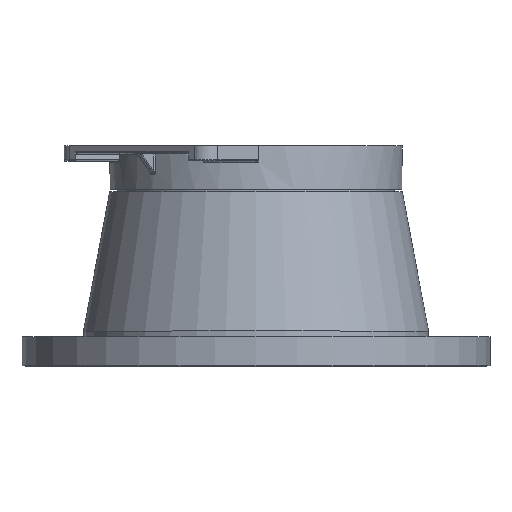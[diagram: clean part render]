
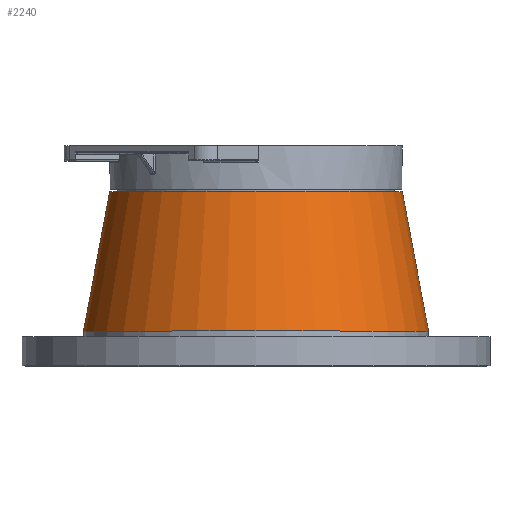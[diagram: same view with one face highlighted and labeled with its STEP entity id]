
A CAD part, top view. The second image highlights one B-rep face of the part: STEP entity #2240.
In plain terms, the highlighted free-form (B-spline) face has degree [2, 1] with [9, 2] control points.
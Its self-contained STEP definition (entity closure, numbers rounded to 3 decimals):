
#2155=CARTESIAN_POINT('',(285.087,17.707,0.0));
#2156=VERTEX_POINT('',#2155);
#2163=CARTESIAN_POINT('',(-9.913,17.707,0.0));
#2164=VERTEX_POINT('',#2163);
#2165=CARTESIAN_POINT('',(137.587,17.707,0.0));
#2166=DIRECTION('',(0.0,-1.0,0.0));
#2167=DIRECTION('',(1.0,0.0,0.0));
#2168=AXIS2_PLACEMENT_3D('',#2165,#2166,#2167);
#2169=CIRCLE('',#2168,147.5);
#2170=EDGE_CURVE('',#2156,#2164,#2169,.T.);
#2172=CARTESIAN_POINT('',(137.587,17.707,0.0));
#2173=DIRECTION('',(0.0,-1.0,0.0));
#2174=DIRECTION('',(1.0,0.0,0.0));
#2175=AXIS2_PLACEMENT_3D('',#2172,#2173,#2174);
#2176=CIRCLE('',#2175,147.5);
#2177=EDGE_CURVE('',#2164,#2156,#2176,.T.);
#2185=CARTESIAN_POINT('',(285.087,17.707,0.0));
#2186=CARTESIAN_POINT('',(285.087,17.707,147.5));
#2187=CARTESIAN_POINT('',(137.587,17.707,147.5));
#2188=CARTESIAN_POINT('',(-9.913,17.707,147.5));
#2189=CARTESIAN_POINT('',(-9.913,17.707,0.0));
#2190=CARTESIAN_POINT('',(-9.913,17.707,-147.5));
#2191=CARTESIAN_POINT('',(137.587,17.707,-147.5));
#2192=CARTESIAN_POINT('',(285.087,17.707,-147.5));
#2193=CARTESIAN_POINT('',(285.087,17.707,0.0));
#2194=CARTESIAN_POINT('',(262.587,137.066,0.0));
#2195=CARTESIAN_POINT('',(262.587,137.066,125.));
#2196=CARTESIAN_POINT('',(137.587,137.066,125.));
#2197=CARTESIAN_POINT('',(12.587,137.066,125.));
#2198=CARTESIAN_POINT('',(12.587,137.066,0.0));
#2199=CARTESIAN_POINT('',(12.587,137.066,-125.));
#2200=CARTESIAN_POINT('',(137.587,137.066,-125.));
#2201=CARTESIAN_POINT('',(262.587,137.066,-125.));
#2202=CARTESIAN_POINT('',(262.587,137.066,0.0));
#2210=(BOUNDED_SURFACE()B_SPLINE_SURFACE(2,1,((#2185,#2194),(#2186,#2195),(#2187,#2196),(#2188,#2197),(#2189,#2198),(#2190,#2199),(#2191,#2200),(#2192,#2201),(#2193,#2202)),.UNSPECIFIED.,.T.,.F.,.U.)B_SPLINE_SURFACE_WITH_KNOTS((3,2,2,2,3),(2,2),(0.0,0.25,0.5,0.75,1.0),(0.0,121.461),.UNSPECIFIED.)GEOMETRIC_REPRESENTATION_ITEM()RATIONAL_B_SPLINE_SURFACE(((1.0,1.0),(0.707,0.707),(1.0,1.0),(0.707,0.707),(1.0,1.0),(0.707,0.707),(1.0,1.0),(0.707,0.707),(1.0,1.0)))REPRESENTATION_ITEM('')SURFACE());
#2211=CARTESIAN_POINT('',(262.587,137.066,0.0));
#2212=VERTEX_POINT('',#2211);
#2213=CARTESIAN_POINT('',(285.087,17.707,0.0));
#2214=DIRECTION('',(-0.185,0.983,0.0));
#2215=VECTOR('',#2214,121.461);
#2216=LINE('',#2213,#2215);
#2217=EDGE_CURVE('',#2156,#2212,#2216,.T.);
#2218=ORIENTED_EDGE('',*,*,#2217,.T.);
#2219=CARTESIAN_POINT('',(12.587,137.066,0.0));
#2220=VERTEX_POINT('',#2219);
#2221=CARTESIAN_POINT('',(137.587,137.066,0.0));
#2222=DIRECTION('',(0.0,-1.0,0.0));
#2223=DIRECTION('',(1.0,0.0,0.0));
#2224=AXIS2_PLACEMENT_3D('',#2221,#2222,#2223);
#2225=CIRCLE('',#2224,125.);
#2226=EDGE_CURVE('',#2212,#2220,#2225,.T.);
#2227=ORIENTED_EDGE('',*,*,#2226,.T.);
#2228=CARTESIAN_POINT('',(137.587,137.066,0.0));
#2229=DIRECTION('',(0.0,-1.0,0.0));
#2230=DIRECTION('',(1.0,0.0,0.0));
#2231=AXIS2_PLACEMENT_3D('',#2228,#2229,#2230);
#2232=CIRCLE('',#2231,125.);
#2233=EDGE_CURVE('',#2220,#2212,#2232,.T.);
#2234=ORIENTED_EDGE('',*,*,#2233,.T.);
#2235=ORIENTED_EDGE('',*,*,#2217,.F.);
#2236=ORIENTED_EDGE('',*,*,#2177,.F.);
#2237=ORIENTED_EDGE('',*,*,#2170,.F.);
#2238=EDGE_LOOP('',(#2218,#2227,#2234,#2235,#2236,#2237));
#2239=FACE_OUTER_BOUND('',#2238,.T.);
#2240=ADVANCED_FACE('',(#2239),#2210,.F.);
